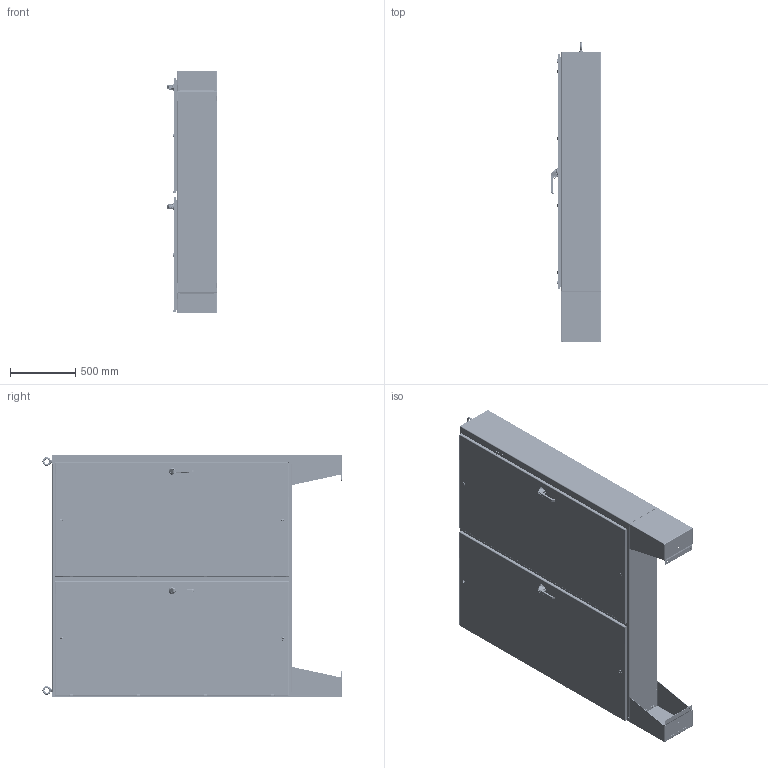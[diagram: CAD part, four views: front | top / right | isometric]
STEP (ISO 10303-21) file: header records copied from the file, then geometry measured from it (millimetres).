
FILE_DESCRIPTION((''),'2;1');
FILE_NAME('MODEL-131_ASM','2021-06-17T15:16:47',('johnh'),('SAGINAW CONTROL & ENGINEERING'),'CREO PARAMETRIC BY PTC INC, 2017260','CREO PARAMETRIC BY PTC INC, 2017260','');
FILE_SCHEMA(('AUTOMOTIVE_DESIGN { 1 0 10303 214 1 1 1 1 }'));
Length unit declared in the file: inch
Products named in the file (129): MODEL-131-BTM; MODEL-131-RS; MODEL-131-LS; MODEL-131-TP; MODEL-131-MN-DR; 100837; 111267; 100882; 100952_HANDLE; 100952_HANDLE_INSERT; 100952_SHAFT_CAM; 100952_ADAPTER_CAM; 100952_NUT_CAM; 100952_BASE; 100952_O-RING; 100952_WASHER_SEALING; 100952_NUT_MOUNTING_LARGE; 100952_NUT_MOUNTING_SMALL; 100952_SCREW_SMALL; 100952_INSERT; 100952_PADLOCK_CATCH; 100952_ASM; 102237; 100030; 102237_ASM; MODEL-131-ROD-UPR-MD; 128146; 128145; 128144; 102482; MODEL-131-ROD-UPR-MD_ASM; 128143; 112504; MODEL-131-ROD-LWR-MD; MODEL-131-ROD-LWR-MD_ASM; MODEL-131-PR-GSKT-MD; 113885_SHAFT; 113885_INSERT; 113885_CAM_30MM; 113885_NUT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
Assembly tree (276 placements, depth 4):
  MODEL-131_ASM
    MODEL-131-BTM
    MODEL-131-RS
    MODEL-131-LS
    MODEL-131-TP
    MODEL-131-M-DOOR-ASSY_ASM
      MODEL-131-MN-DR
      100837  x7
      111267
      100882  x12
      100952_ASM
        100952_HANDLE
        100952_HANDLE_INSERT
        100952_SHAFT_CAM
        100952_ADAPTER_CAM
        100952_NUT_CAM
        100952_BASE
        100952_O-RING
        100952_WASHER_SEALING
        100952_NUT_MOUNTING_LARGE
        100952_NUT_MOUNTING_SMALL
        100952_SCREW_SMALL
        100952_INSERT
        100952_PADLOCK_CATCH
      102237_ASM
        102237
        100030  x2
      MODEL-131-ROD-UPR-MD_ASM
        MODEL-131-ROD-UPR-MD
        128146
        128145
        128144
        102482  x2
      128143  x2
      112504  x2
      MODEL-131-ROD-LWR-MD_ASM
        MODEL-131-ROD-LWR-MD
        128146
        128145
        128144
        102482  x2
      MODEL-131-PR-GSKT-MD
      113885_ASM  x2
        113885_SHAFT
        113885_INSERT
        113885_CAM_30MM
        113885_NUT
        113885_SCREW
      128258_ASM  x4
        128258
        126397
      126395  x4
      102483  x4
      101383_ASM  x4
        101383
        101383-STUD
      101221  x4
    MODEL-131-S-DOOR-ASSY_ASM
      MODEL-131-SEC-DR
      100837  x3
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Bounding box: 382.17 x 2284.6 x 1854.2 mm (x, y, z)
Volume: 42052316.7 mm3; surface area: 30133393.7 mm2
Topology: 309 solids, 309 shells, 22952 faces, 58919 edges, 36681 vertices
Faces by surface type: plane 8558, cylinder 6224, bspline 4746, cone 1439, torus 1421, sphere 564
Entity records: 431950 total; most frequent: CARTESIAN_POINT 126972, ORIENTED_EDGE 43380, DIRECTION 41271, PRESENTATION_STYLE_ASSIGNMENT 21742, EDGE_CURVE 21690, STYLED_ITEM 21163, CURVE_STYLE 19863, AXIS2_PLACEMENT_3D 15333
